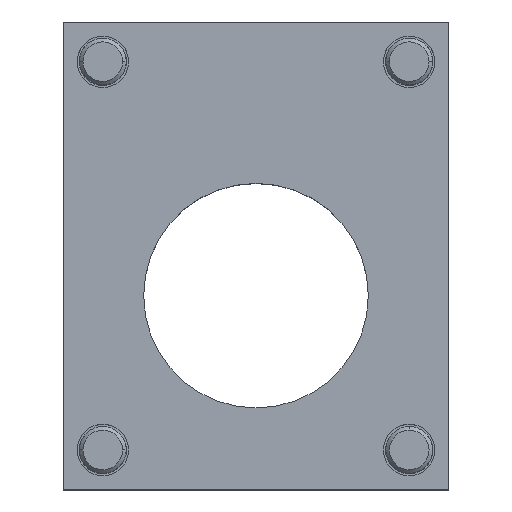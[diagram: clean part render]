
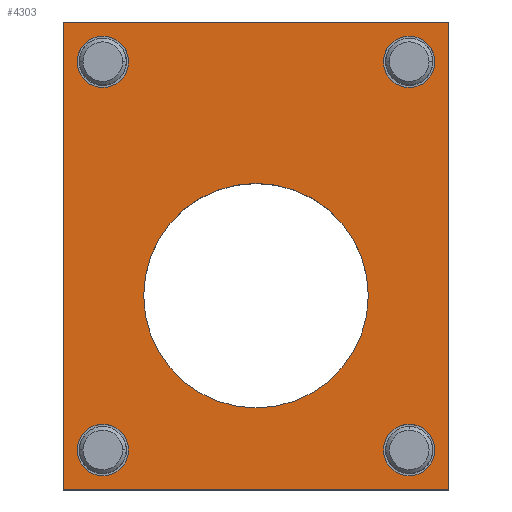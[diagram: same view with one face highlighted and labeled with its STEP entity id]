
A CAD part, top view. The second image highlights one B-rep face of the part: STEP entity #4303.
In plain terms, the highlighted planar face has unit normal (0, 0, 1).
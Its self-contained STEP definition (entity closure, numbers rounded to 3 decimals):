
#31 = CARTESIAN_POINT ( 'NONE',  ( 82.5, -83., -49.5 ) ) ;
#80 = DIRECTION ( 'NONE',  ( 0., 0., -1. ) ) ;
#97 = CARTESIAN_POINT ( 'NONE',  ( 65.5, -66., -49.5 ) ) ;
#216 = CIRCLE ( 'NONE', #4174, 11. ) ;
#288 = DIRECTION ( 'NONE',  ( 0., 1., 0. ) ) ;
#318 = CARTESIAN_POINT ( 'NONE',  ( 65.5, 100., -49.5 ) ) ;
#349 = EDGE_CURVE ( 'NONE', #6336, #6124, #6330, .T. ) ;
#469 = FACE_BOUND ( 'NONE', #6468, .T. ) ;
#547 = EDGE_CURVE ( 'NONE', #3789, #1478, #3801, .T. ) ;
#561 = CIRCLE ( 'NONE', #5991, 11. ) ;
#595 = CIRCLE ( 'NONE', #6120, 11. ) ;
#599 = ORIENTED_EDGE ( 'NONE', *, *, #954, .F. ) ;
#796 = CARTESIAN_POINT ( 'NONE',  ( -65.5, 100., -49.5 ) ) ;
#807 = CARTESIAN_POINT ( 'NONE',  ( -82.5, 117., -49.5 ) ) ;
#859 = DIRECTION ( 'NONE',  ( 0., 0., -1. ) ) ;
#943 = VERTEX_POINT ( 'NONE', #5740 ) ;
#954 = EDGE_CURVE ( 'NONE', #943, #5936, #3600, .T. ) ;
#979 = AXIS2_PLACEMENT_3D ( 'NONE', #3135, #3624, #3595 ) ;
#1000 = FACE_BOUND ( 'NONE', #2646, .T. ) ;
#1058 = CARTESIAN_POINT ( 'NONE',  ( 0., 0., -49.5 ) ) ;
#1189 = PLANE ( 'NONE',  #979 ) ;
#1206 = AXIS2_PLACEMENT_3D ( 'NONE', #1988, #2552, #1605 ) ;
#1259 = ORIENTED_EDGE ( 'NONE', *, *, #4465, .T. ) ;
#1362 = DIRECTION ( 'NONE',  ( 0., 1., 0. ) ) ;
#1469 = DIRECTION ( 'NONE',  ( 0., 1., 0. ) ) ;
#1478 = VERTEX_POINT ( 'NONE', #4149 ) ;
#1510 = VECTOR ( 'NONE', #4866, 1000. ) ;
#1531 = AXIS2_PLACEMENT_3D ( 'NONE', #1763, #5354, #5391 ) ;
#1573 = DIRECTION ( 'NONE',  ( 0., 0., -1. ) ) ;
#1605 = DIRECTION ( 'NONE',  ( 0., 1., 0. ) ) ;
#1748 = CIRCLE ( 'NONE', #1531, 11. ) ;
#1763 = CARTESIAN_POINT ( 'NONE',  ( -65.5, 100., -49.5 ) ) ;
#1765 = AXIS2_PLACEMENT_3D ( 'NONE', #4228, #80, #4127 ) ;
#1811 = VERTEX_POINT ( 'NONE', #5182 ) ;
#1852 = ORIENTED_EDGE ( 'NONE', *, *, #4218, .T. ) ;
#1926 = DIRECTION ( 'NONE',  ( 0., 0., -1. ) ) ;
#1944 = EDGE_LOOP ( 'NONE', ( #3508, #2349 ) ) ;
#1988 = CARTESIAN_POINT ( 'NONE',  ( 0., 0., -49.5 ) ) ;
#2152 = DIRECTION ( 'NONE',  ( 0., 0., -1. ) ) ;
#2349 = ORIENTED_EDGE ( 'NONE', *, *, #6044, .T. ) ;
#2426 = ORIENTED_EDGE ( 'NONE', *, *, #3162, .T. ) ;
#2534 = EDGE_LOOP ( 'NONE', ( #1259, #3403 ) ) ;
#2541 = DIRECTION ( 'NONE',  ( 0., 1., 0. ) ) ;
#2543 = FACE_BOUND ( 'NONE', #1944, .T. ) ;
#2552 = DIRECTION ( 'NONE',  ( 0., 0., -1. ) ) ;
#2589 = VERTEX_POINT ( 'NONE', #4933 ) ;
#2613 = CARTESIAN_POINT ( 'NONE',  ( -82.5, -83., -49.5 ) ) ;
#2616 = VECTOR ( 'NONE', #6301, 1000. ) ;
#2632 = EDGE_CURVE ( 'NONE', #6124, #6336, #4418, .T. ) ;
#2646 = EDGE_LOOP ( 'NONE', ( #6260, #5303 ) ) ;
#2676 = AXIS2_PLACEMENT_3D ( 'NONE', #97, #2152, #3558 ) ;
#2830 = DIRECTION ( 'NONE',  ( 0., 0., -1. ) ) ;
#2920 = CARTESIAN_POINT ( 'NONE',  ( 65.5, 100., -49.5 ) ) ;
#2931 = CARTESIAN_POINT ( 'NONE',  ( -82.5, -83., -49.5 ) ) ;
#2935 = CIRCLE ( 'NONE', #1765, 11. ) ;
#2944 = CARTESIAN_POINT ( 'NONE',  ( -65.5, -66., -49.5 ) ) ;
#3063 = CARTESIAN_POINT ( 'NONE',  ( 65.5, 89., -49.5 ) ) ;
#3135 = CARTESIAN_POINT ( 'NONE',  ( 0., 17., -49.5 ) ) ;
#3162 = EDGE_CURVE ( 'NONE', #4046, #1811, #2935, .T. ) ;
#3329 = ORIENTED_EDGE ( 'NONE', *, *, #4138, .F. ) ;
#3334 = EDGE_CURVE ( 'NONE', #5067, #4712, #595, .T. ) ;
#3399 = CARTESIAN_POINT ( 'NONE',  ( -65.5, -55., -49.5 ) ) ;
#3403 = ORIENTED_EDGE ( 'NONE', *, *, #5243, .T. ) ;
#3508 = ORIENTED_EDGE ( 'NONE', *, *, #3571, .T. ) ;
#3536 = AXIS2_PLACEMENT_3D ( 'NONE', #318, #859, #1362 ) ;
#3558 = DIRECTION ( 'NONE',  ( 0., 1., 0. ) ) ;
#3571 = EDGE_CURVE ( 'NONE', #2589, #6041, #5548, .T. ) ;
#3590 = CARTESIAN_POINT ( 'NONE',  ( -65.5, 111., -49.5 ) ) ;
#3595 = DIRECTION ( 'NONE',  ( 0., -1., 0. ) ) ;
#3600 = LINE ( 'NONE', #2613, #6187 ) ;
#3624 = DIRECTION ( 'NONE',  ( 0., 0., 1. ) ) ;
#3684 = CARTESIAN_POINT ( 'NONE',  ( 0., 48., -49.5 ) ) ;
#3789 = VERTEX_POINT ( 'NONE', #6107 ) ;
#3798 = EDGE_CURVE ( 'NONE', #1478, #943, #5040, .T. ) ;
#3801 = LINE ( 'NONE', #4238, #2616 ) ;
#4043 = ORIENTED_EDGE ( 'NONE', *, *, #547, .F. ) ;
#4046 = VERTEX_POINT ( 'NONE', #3399 ) ;
#4102 = DIRECTION ( 'NONE',  ( 0., 0., -1. ) ) ;
#4127 = DIRECTION ( 'NONE',  ( 0., 1., 0. ) ) ;
#4138 = EDGE_CURVE ( 'NONE', #5936, #3789, #5338, .T. ) ;
#4149 = CARTESIAN_POINT ( 'NONE',  ( 82.5, 117., -49.5 ) ) ;
#4174 = AXIS2_PLACEMENT_3D ( 'NONE', #2944, #4102, #1469 ) ;
#4218 = EDGE_CURVE ( 'NONE', #1811, #4046, #216, .T. ) ;
#4228 = CARTESIAN_POINT ( 'NONE',  ( -65.5, -66., -49.5 ) ) ;
#4238 = CARTESIAN_POINT ( 'NONE',  ( 82.5, 117., -49.5 ) ) ;
#4260 = FACE_BOUND ( 'NONE', #2534, .T. ) ;
#4300 = CARTESIAN_POINT ( 'NONE',  ( 65.5, 111., -49.5 ) ) ;
#4303 = ADVANCED_FACE ( 'NONE', ( #469, #1000, #2543, #4562, #4260, #5704 ), #1189, .T. ) ;
#4315 = AXIS2_PLACEMENT_3D ( 'NONE', #1058, #5092, #2541 ) ;
#4367 = EDGE_LOOP ( 'NONE', ( #4043, #3329, #599, #5344 ) ) ;
#4418 = CIRCLE ( 'NONE', #4315, 48. ) ;
#4465 = EDGE_CURVE ( 'NONE', #4532, #5581, #6410, .T. ) ;
#4532 = VERTEX_POINT ( 'NONE', #4300 ) ;
#4562 = FACE_BOUND ( 'NONE', #5829, .T. ) ;
#4712 = VERTEX_POINT ( 'NONE', #3590 ) ;
#4866 = DIRECTION ( 'NONE',  ( 0., 1., 0. ) ) ;
#4933 = CARTESIAN_POINT ( 'NONE',  ( 65.5, -55., -49.5 ) ) ;
#4950 = DIRECTION ( 'NONE',  ( 0., 1., 0. ) ) ;
#5009 = CIRCLE ( 'NONE', #5870, 11. ) ;
#5040 = LINE ( 'NONE', #31, #6604 ) ;
#5067 = VERTEX_POINT ( 'NONE', #5851 ) ;
#5092 = DIRECTION ( 'NONE',  ( 0., 0., -1. ) ) ;
#5136 = DIRECTION ( 'NONE',  ( -1., 0., 0. ) ) ;
#5182 = CARTESIAN_POINT ( 'NONE',  ( -65.5, -77., -49.5 ) ) ;
#5243 = EDGE_CURVE ( 'NONE', #5581, #4532, #5009, .T. ) ;
#5303 = ORIENTED_EDGE ( 'NONE', *, *, #3334, .T. ) ;
#5338 = LINE ( 'NONE', #807, #1510 ) ;
#5344 = ORIENTED_EDGE ( 'NONE', *, *, #3798, .F. ) ;
#5354 = DIRECTION ( 'NONE',  ( 0., 0., -1. ) ) ;
#5391 = DIRECTION ( 'NONE',  ( 0., 1., 0. ) ) ;
#5548 = CIRCLE ( 'NONE', #2676, 11. ) ;
#5581 = VERTEX_POINT ( 'NONE', #3063 ) ;
#5610 = ORIENTED_EDGE ( 'NONE', *, *, #349, .T. ) ;
#5704 = FACE_OUTER_BOUND ( 'NONE', #4367, .T. ) ;
#5740 = CARTESIAN_POINT ( 'NONE',  ( 82.5, -83., -49.5 ) ) ;
#5827 = CARTESIAN_POINT ( 'NONE',  ( 0., -48., -49.5 ) ) ;
#5829 = EDGE_LOOP ( 'NONE', ( #2426, #1852 ) ) ;
#5851 = CARTESIAN_POINT ( 'NONE',  ( -65.5, 89., -49.5 ) ) ;
#5870 = AXIS2_PLACEMENT_3D ( 'NONE', #2920, #1573, #4950 ) ;
#5936 = VERTEX_POINT ( 'NONE', #2931 ) ;
#5958 = ORIENTED_EDGE ( 'NONE', *, *, #2632, .T. ) ;
#5991 = AXIS2_PLACEMENT_3D ( 'NONE', #6520, #1926, #6556 ) ;
#6041 = VERTEX_POINT ( 'NONE', #6487 ) ;
#6044 = EDGE_CURVE ( 'NONE', #6041, #2589, #561, .T. ) ;
#6107 = CARTESIAN_POINT ( 'NONE',  ( -82.5, 117., -49.5 ) ) ;
#6120 = AXIS2_PLACEMENT_3D ( 'NONE', #796, #2830, #288 ) ;
#6124 = VERTEX_POINT ( 'NONE', #3684 ) ;
#6187 = VECTOR ( 'NONE', #5136, 1000. ) ;
#6260 = ORIENTED_EDGE ( 'NONE', *, *, #6341, .T. ) ;
#6301 = DIRECTION ( 'NONE',  ( 1., 0., 0. ) ) ;
#6330 = CIRCLE ( 'NONE', #1206, 48. ) ;
#6336 = VERTEX_POINT ( 'NONE', #5827 ) ;
#6341 = EDGE_CURVE ( 'NONE', #4712, #5067, #1748, .T. ) ;
#6410 = CIRCLE ( 'NONE', #3536, 11. ) ;
#6468 = EDGE_LOOP ( 'NONE', ( #5958, #5610 ) ) ;
#6487 = CARTESIAN_POINT ( 'NONE',  ( 65.5, -77., -49.5 ) ) ;
#6520 = CARTESIAN_POINT ( 'NONE',  ( 65.5, -66., -49.5 ) ) ;
#6556 = DIRECTION ( 'NONE',  ( 0., 1., 0. ) ) ;
#6597 = DIRECTION ( 'NONE',  ( 0., -1., 0. ) ) ;
#6604 = VECTOR ( 'NONE', #6597, 1000. ) ;
